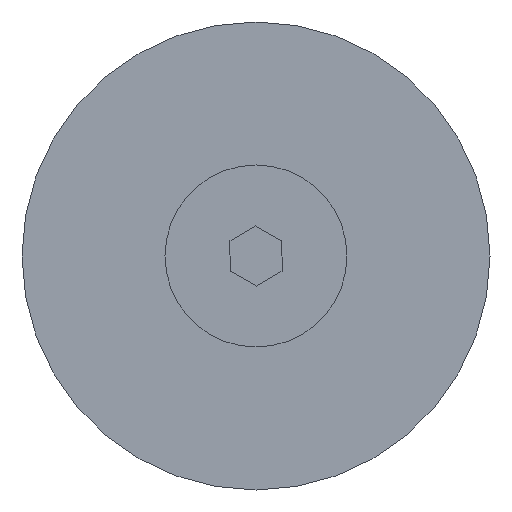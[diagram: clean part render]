
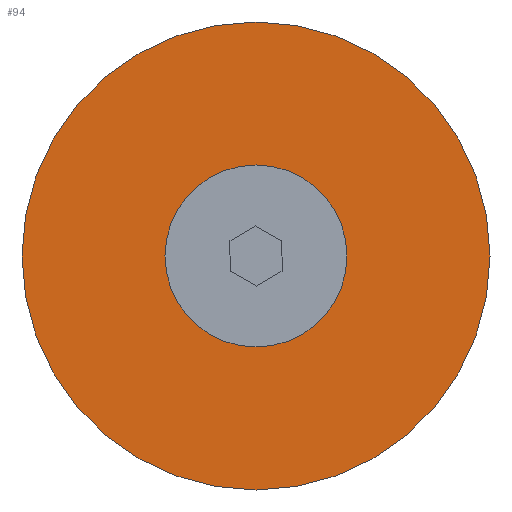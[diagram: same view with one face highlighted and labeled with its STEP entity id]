
A CAD part, front view. The second image highlights one B-rep face of the part: STEP entity #94.
In plain terms, the highlighted planar face has unit normal (0, -1, 0).
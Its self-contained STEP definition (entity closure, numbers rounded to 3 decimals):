
#94=ADVANCED_FACE('',(#146,#147),#148,.F.);
#146=FACE_OUTER_BOUND('',#210,.T.);
#147=FACE_BOUND('',#211,.T.);
#148=PLANE('',#212);
#210=EDGE_LOOP('',(#373,#374));
#211=EDGE_LOOP('',(#375,#376));
#212=AXIS2_PLACEMENT_3D('',#377,#378,#379);
#373=ORIENTED_EDGE('',*,*,#495,.T.);
#374=ORIENTED_EDGE('',*,*,#497,.T.);
#375=ORIENTED_EDGE('',*,*,#498,.F.);
#376=ORIENTED_EDGE('',*,*,#499,.F.);
#377=CARTESIAN_POINT('',(-9.,-5.0,0.0));
#378=DIRECTION('',(-0.0,1.0,0.0));
#379=DIRECTION('',(1.0,0.0,0.0));
#495=EDGE_CURVE('',#586,#584,#587,.T.);
#497=EDGE_CURVE('',#584,#586,#589,.T.);
#498=EDGE_CURVE('',#590,#591,#592,.T.);
#499=EDGE_CURVE('',#591,#590,#593,.T.);
#584=VERTEX_POINT('',#718);
#586=VERTEX_POINT('',#721);
#587=CIRCLE('',#722,9.0);
#589=CIRCLE('',#725,9.0);
#590=VERTEX_POINT('',#726);
#591=VERTEX_POINT('',#727);
#592=CIRCLE('',#728,3.5);
#593=CIRCLE('',#729,3.5);
#718=CARTESIAN_POINT('',(0.,-5.0,9.0));
#721=CARTESIAN_POINT('',(0.,-5.0,-9.0));
#722=AXIS2_PLACEMENT_3D('',#849,#850,#851);
#725=AXIS2_PLACEMENT_3D('',#853,#854,#855);
#726=CARTESIAN_POINT('',(0.,-5.0,-3.5));
#727=CARTESIAN_POINT('',(0.,-5.0,3.5));
#728=AXIS2_PLACEMENT_3D('',#856,#857,#858);
#729=AXIS2_PLACEMENT_3D('',#859,#860,#861);
#849=CARTESIAN_POINT('',(0.,-5.0,0.0));
#850=DIRECTION('',(0.0,-1.0,0.0));
#851=DIRECTION('',(0.0,0.0,-1.0));
#853=CARTESIAN_POINT('',(0.,-5.0,0.0));
#854=DIRECTION('',(0.0,-1.0,0.0));
#855=DIRECTION('',(0.0,0.0,-1.0));
#856=CARTESIAN_POINT('',(0.,-5.0,0.0));
#857=DIRECTION('',(0.0,-1.0,0.0));
#858=DIRECTION('',(0.0,0.0,-1.0));
#859=CARTESIAN_POINT('',(0.,-5.0,0.0));
#860=DIRECTION('',(0.0,-1.0,0.0));
#861=DIRECTION('',(0.0,0.0,-1.0));
